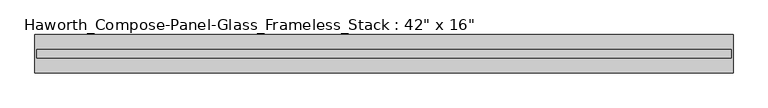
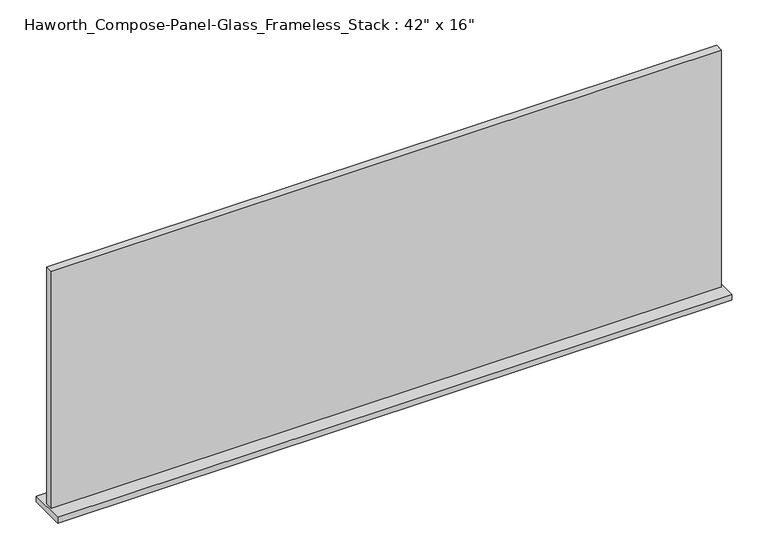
"""IFC4 building model written with IfcOpenShell, lengths in millimetres: furniture geometry."""

from ifc_helpers import new_model, si_unit, frame, origin, place, context, project, spatial, polyline, outline, extrude, source, transform, mapped, element, save


def furniture_d4bf61b1(model_context):
    return source(origin(), model_context, "Body", "SweptSolid", [
        extrude(outline(polyline([(532.6652902, -27.3093594), (-527.7847098, -27.3093594), (-527.7847098, -14.6093594), (532.6652902, -14.6093594), (532.6652902, -27.3093594)])), frame((0.0, 0.0, 746.125), z_axis=(0.0, 0.0, 1.0), x_axis=(1.0, 0.0, 0.0)), (0.0, 0.0, 1.0), 396.875),
        extrude(outline(polyline([(-530.9597098, -50.3281094), (-530.9597098, 8.4093906), (535.8402902, 8.4093906), (535.8402902, -50.3281094), (-530.9597098, -50.3281094)])), frame((0.0, 0.0, 736.6), z_axis=(0.0, 0.0, 1.0), x_axis=(1.0, 0.0, 0.0)), (0.0, 0.0, 1.0), 9.525),
    ])


if __name__ == "__main__":
    model = new_model("IFC4")
    model_context = context("Model", 3, world=origin())
    ifc_project = project(units=[si_unit("LENGTHUNIT", "METRE", prefix="MILLI")], contexts=[model_context])
    site = spatial("IfcSite", under=ifc_project)
    building = spatial("IfcBuilding", under=site)
    placement = place(None, origin())
    furniture_shape = furniture_d4bf61b1(model_context)
    element("IfcFurniture", 1, ObjectType="Haworth_Compose-Panel-Glass_Frameless_Stack : 42\" x 16\"", at=placement, inside=building, context=model_context, shape_type="MappedRepresentation", body=[
        mapped(furniture_shape, transform((0.0, 0.0, 0.0), x_axis=(1.0, 0.0, 0.0), y_axis=(0.0, 1.0, 0.0), z_axis=(0.0, 0.0, 1.0))),
    ])
    save(model, "model.ifc")
